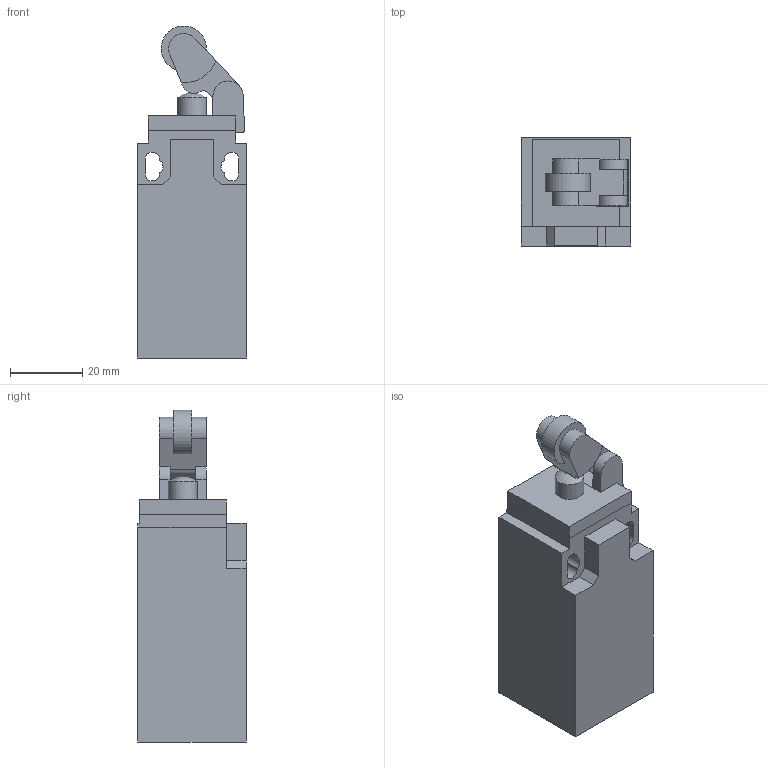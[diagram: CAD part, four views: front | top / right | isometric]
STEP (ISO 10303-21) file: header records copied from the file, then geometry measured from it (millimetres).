
FILE_DESCRIPTION((''),'2;1');
FILE_NAME('C:\Workarea\Disegni\Comepi\Catalogo\Stp\Finecorsa\AP1_T31.iam.step','2011-07-22T16:14:54',(''),(''),'Autodesk Inventor 2012','Autodesk Inventor 2012','');
FILE_SCHEMA(('AUTOMOTIVE_DESIGN { 1 0 10303 214 1 1 1 1 }'));
Length unit declared in the file: millimetre
Products named in the file (6): AP1_T31; AP1; T31; T31_1; T31_2; T31_3
Assembly tree (5 placements, depth 3):
  AP1_T31
    AP1
    T31
      T31_1
      T31_2
      T31_3
Bounding box: 30.3 x 30 x 91.9 mm (x, y, z)
Volume: 54474.7 mm3; surface area: 14673.4 mm2
Topology: 4 solids, 4 shells, 75 faces, 194 edges, 128 vertices
Faces by surface type: plane 54, cylinder 20, sphere 1
Full cylindrical faces by diameter (mm): 8 x2, 20.4 x1
Entity records: 2499 total; most frequent: CARTESIAN_POINT 405, DIRECTION 403, ORIENTED_EDGE 382, EDGE_CURVE 191, VECTOR 151, LINE 151, VERTEX_POINT 128, AXIS2_PLACEMENT_3D 126
